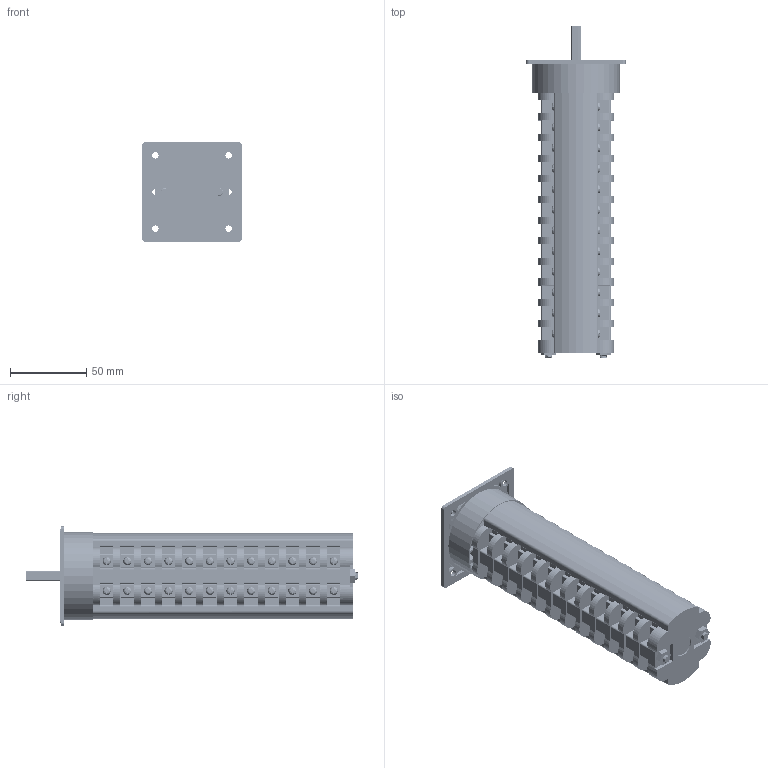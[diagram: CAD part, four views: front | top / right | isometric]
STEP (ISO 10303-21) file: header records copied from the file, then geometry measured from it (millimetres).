
FILE_DESCRIPTION(/* description */ (''),/* implementation_level */ '2;1');
FILE_NAME(/* name */ '4G16,25_standard_12_korpusow.stp',/* time_stamp */ '2021-07-21T14:35:34+02:00',/* author */ (''),/* organization */ (''),/* preprocessor_version */ 'ST-DEVELOPER v18.1',/* originating_system */ 'SIEMENS PLM Software NX 1965',/* authorisation */ '');
FILE_SCHEMA (('AUTOMOTIVE_DESIGN { 1 0 10303 214 3 1 1 1 }'));
Products named in the file (1): 4G16,25_standard_12_korpusow_stp
Bounding box: 65 x 217.2 x 65 mm (x, y, z)
Volume: 372909.2 mm3; surface area: 83443.7 mm2
Topology: 1 solids, 5 shells, 2335 faces, 6561 edges, 4338 vertices
Faces by surface type: plane 1406, cylinder 626, bspline 206, cone 97
Full cylindrical faces by diameter (mm): 3.3 x3, 4 x4, 4.3 x4, 5 x2, 5.4 x48, 6.5 x2, 7.2 x4, 10 x1, 14 x1, 57 x1
Entity records: 214277 total; most frequent: CARTESIAN_POINT 156923, ORIENTED_EDGE 12656, DIRECTION 10803, EDGE_CURVE 6328, VERTEX_POINT 4229, AXIS2_PLACEMENT_3D 3861, LINE 3081, VECTOR 3081
